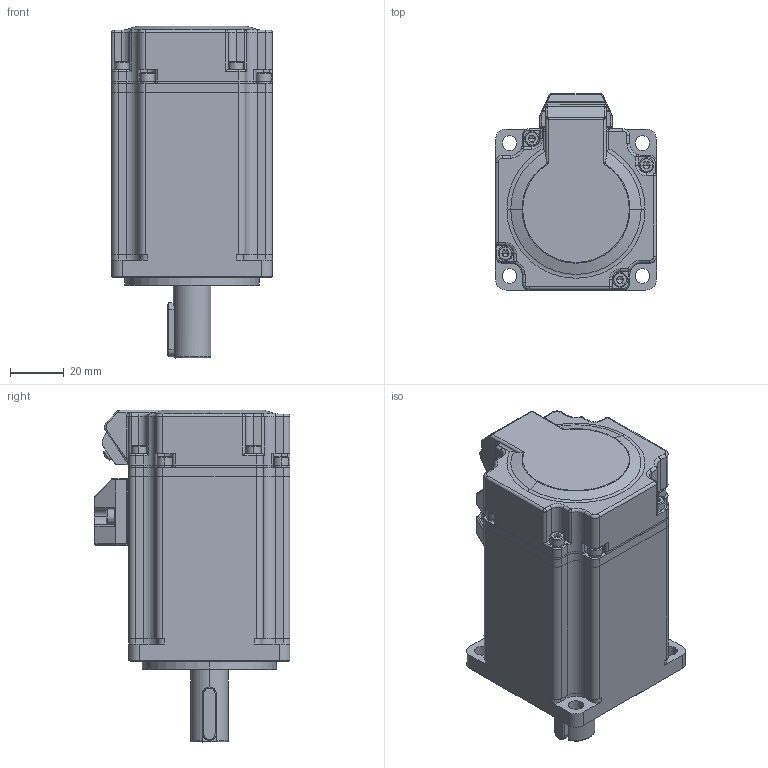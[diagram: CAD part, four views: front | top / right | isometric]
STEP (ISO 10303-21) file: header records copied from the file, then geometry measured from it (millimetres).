
FILE_DESCRIPTION (( 'STEP AP203' ), '1' );
FILE_NAME ('BMR-Z04B06030-ÎÞ±§Õ¢.STEP', '2024-03-23T09:22:15', ( '' ), ( '' ), 'SwSTEP 2.0', 'SolidWorks 2018', '' );
FILE_SCHEMA (( 'CONFIG_CONTROL_DESIGN' ));
Length unit declared in the file: millimetre
Products named in the file (1): BMR-Z04B06030-拸惕掅
Bounding box: 60 x 73 x 123.7 mm (x, y, z)
Volume: 139866.8 mm3; surface area: 85995.9 mm2
Topology: 27 solids, 27 shells, 1214 faces, 2971 edges, 1839 vertices
Faces by surface type: cylinder 480, plane 467, cone 137, torus 104, sphere 18, bspline 8
Entity records: 36395 total; most frequent: CARTESIAN_POINT 7066, DIRECTION 6543, ORIENTED_EDGE 5850, EDGE_CURVE 2925, AXIS2_PLACEMENT_3D 2547, VERTEX_POINT 1839, LINE 1449, VECTOR 1449
